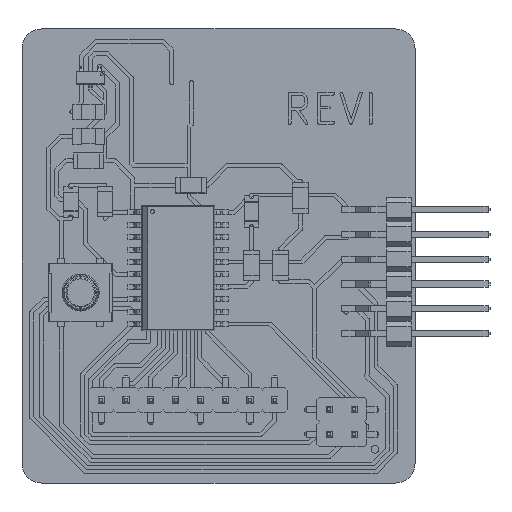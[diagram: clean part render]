
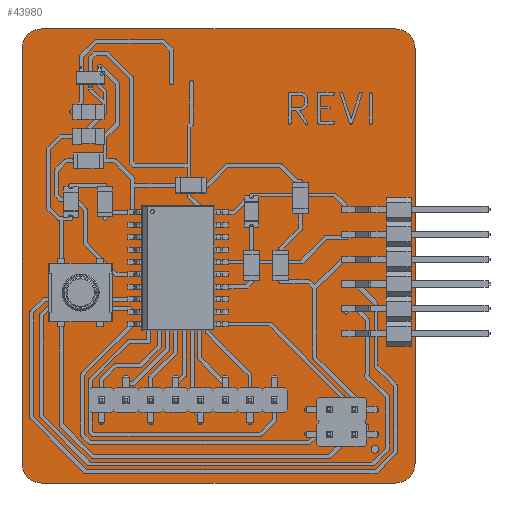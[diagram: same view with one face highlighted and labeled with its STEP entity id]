
A CAD part, top view. The second image highlights one B-rep face of the part: STEP entity #43980.
In plain terms, the highlighted planar face has unit normal (0, 0, 1).
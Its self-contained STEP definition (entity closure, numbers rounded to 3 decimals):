
#43715 = VERTEX_POINT('',#43716);
#43716 = CARTESIAN_POINT('',(184.75,-42.,1.51));
#43722 = EDGE_CURVE('',#43715,#43723,#43725,.T.);
#43723 = VERTEX_POINT('',#43724);
#43724 = CARTESIAN_POINT('',(186.75,-44.,1.51));
#43725 = CIRCLE('',#43726,2.);
#43726 = AXIS2_PLACEMENT_3D('',#43727,#43728,#43729);
#43727 = CARTESIAN_POINT('',(184.75,-44.,1.51));
#43728 = DIRECTION('',(0.,0.,-1.));
#43729 = DIRECTION('',(0.,1.,0.));
#43755 = EDGE_CURVE('',#43723,#43756,#43758,.T.);
#43756 = VERTEX_POINT('',#43757);
#43757 = CARTESIAN_POINT('',(186.75,-86.5,1.51));
#43758 = LINE('',#43759,#43760);
#43759 = CARTESIAN_POINT('',(186.75,-44.,1.51));
#43760 = VECTOR('',#43761,1.);
#43761 = DIRECTION('',(0.,-1.,0.));
#43786 = EDGE_CURVE('',#43756,#43787,#43789,.T.);
#43787 = VERTEX_POINT('',#43788);
#43788 = CARTESIAN_POINT('',(184.75,-88.5,1.51));
#43789 = CIRCLE('',#43790,2.);
#43790 = AXIS2_PLACEMENT_3D('',#43791,#43792,#43793);
#43791 = CARTESIAN_POINT('',(184.75,-86.5,1.51));
#43792 = DIRECTION('',(0.,0.,-1.));
#43793 = DIRECTION('',(1.,0.,0.));
#43819 = EDGE_CURVE('',#43787,#43820,#43822,.T.);
#43820 = VERTEX_POINT('',#43821);
#43821 = CARTESIAN_POINT('',(148.5,-88.5,1.51));
#43822 = LINE('',#43823,#43824);
#43823 = CARTESIAN_POINT('',(184.75,-88.5,1.51));
#43824 = VECTOR('',#43825,1.);
#43825 = DIRECTION('',(-1.,0.,0.));
#43850 = EDGE_CURVE('',#43820,#43851,#43853,.T.);
#43851 = VERTEX_POINT('',#43852);
#43852 = CARTESIAN_POINT('',(146.5,-86.5,1.51));
#43853 = CIRCLE('',#43854,2.);
#43854 = AXIS2_PLACEMENT_3D('',#43855,#43856,#43857);
#43855 = CARTESIAN_POINT('',(148.5,-86.5,1.51));
#43856 = DIRECTION('',(0.,0.,-1.));
#43857 = DIRECTION('',(0.,-1.,0.));
#43883 = EDGE_CURVE('',#43851,#43884,#43886,.T.);
#43884 = VERTEX_POINT('',#43885);
#43885 = CARTESIAN_POINT('',(146.5,-44.,1.51));
#43886 = LINE('',#43887,#43888);
#43887 = CARTESIAN_POINT('',(146.5,-86.5,1.51));
#43888 = VECTOR('',#43889,1.);
#43889 = DIRECTION('',(0.,1.,0.));
#43914 = EDGE_CURVE('',#43884,#43915,#43917,.T.);
#43915 = VERTEX_POINT('',#43916);
#43916 = CARTESIAN_POINT('',(148.5,-42.,1.51));
#43917 = CIRCLE('',#43918,2.);
#43918 = AXIS2_PLACEMENT_3D('',#43919,#43920,#43921);
#43919 = CARTESIAN_POINT('',(148.5,-44.,1.51));
#43920 = DIRECTION('',(0.,0.,-1.));
#43921 = DIRECTION('',(-1.,0.,-0.));
#43947 = EDGE_CURVE('',#43915,#43715,#43948,.T.);
#43948 = LINE('',#43949,#43950);
#43949 = CARTESIAN_POINT('',(148.5,-42.,1.51));
#43950 = VECTOR('',#43951,1.);
#43951 = DIRECTION('',(1.,0.,0.));
#43980 = ADVANCED_FACE('',(#43981),#43991,.T.);
#43981 = FACE_BOUND('',#43982,.F.);
#43982 = EDGE_LOOP('',(#43983,#43984,#43985,#43986,#43987,#43988,#43989,
    #43990));
#43983 = ORIENTED_EDGE('',*,*,#43722,.T.);
#43984 = ORIENTED_EDGE('',*,*,#43755,.T.);
#43985 = ORIENTED_EDGE('',*,*,#43786,.T.);
#43986 = ORIENTED_EDGE('',*,*,#43819,.T.);
#43987 = ORIENTED_EDGE('',*,*,#43850,.T.);
#43988 = ORIENTED_EDGE('',*,*,#43883,.T.);
#43989 = ORIENTED_EDGE('',*,*,#43914,.T.);
#43990 = ORIENTED_EDGE('',*,*,#43947,.T.);
#43991 = PLANE('',#43992);
#43992 = AXIS2_PLACEMENT_3D('',#43993,#43994,#43995);
#43993 = CARTESIAN_POINT('',(0.,0.,1.51));
#43994 = DIRECTION('',(0.,0.,1.));
#43995 = DIRECTION('',(1.,0.,-0.));
